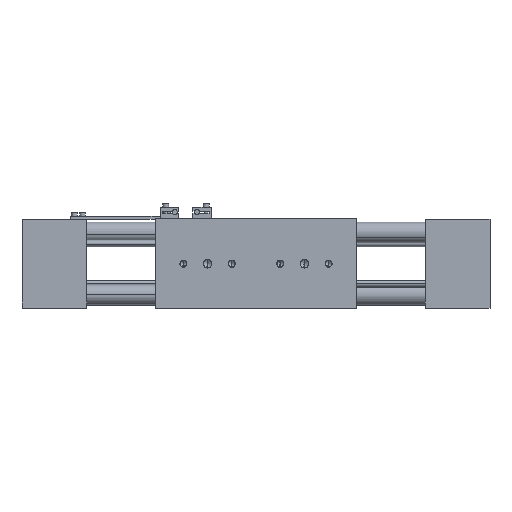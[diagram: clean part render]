
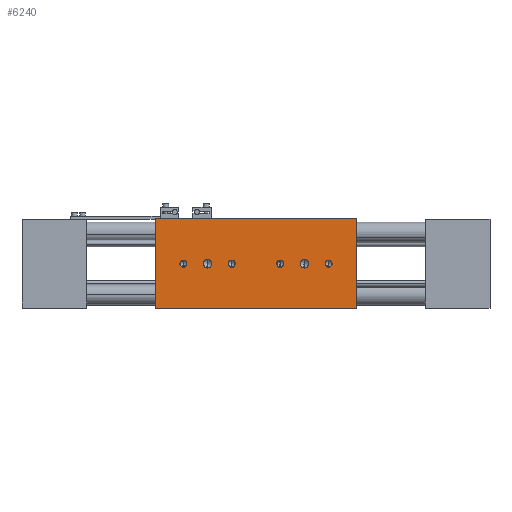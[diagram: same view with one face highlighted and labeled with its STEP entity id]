
A CAD part, front view. The second image highlights one B-rep face of the part: STEP entity #6240.
In plain terms, the highlighted planar face has unit normal (0, -1, 0).
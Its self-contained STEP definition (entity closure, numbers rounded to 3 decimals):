
#119 = CARTESIAN_POINT ( 'NONE',  ( -79.375, -35.56, -35.56 ) ) ;
#141 = EDGE_LOOP ( 'NONE', ( #3650, #5715 ) ) ;
#231 = EDGE_LOOP ( 'NONE', ( #5742, #7106 ) ) ;
#238 = AXIS2_PLACEMENT_3D ( 'NONE', #6241, #2298, #6925 ) ;
#246 = ORIENTED_EDGE ( 'NONE', *, *, #981, .F. ) ;
#276 = VECTOR ( 'NONE', #3984, 1000. ) ;
#380 = CIRCLE ( 'NONE', #1362, 2.807 ) ;
#422 = DIRECTION ( 'NONE',  ( 0., 0., 1. ) ) ;
#427 = ORIENTED_EDGE ( 'NONE', *, *, #7292, .T. ) ;
#452 = LINE ( 'NONE', #7985, #276 ) ;
#476 = DIRECTION ( 'NONE',  ( 0., 1., 0. ) ) ;
#531 = VECTOR ( 'NONE', #1212, 1000. ) ;
#561 = CARTESIAN_POINT ( 'NONE',  ( -19.05, -35.56, 0. ) ) ;
#573 = EDGE_CURVE ( 'NONE', #7509, #4147, #6424, .T. ) ;
#675 = CIRCLE ( 'NONE', #880, 2.807 ) ;
#708 = CIRCLE ( 'NONE', #3105, 3.429 ) ;
#865 = AXIS2_PLACEMENT_3D ( 'NONE', #3472, #8119, #4132 ) ;
#880 = AXIS2_PLACEMENT_3D ( 'NONE', #6082, #2136, #6754 ) ;
#950 = ORIENTED_EDGE ( 'NONE', *, *, #573, .T. ) ;
#981 = EDGE_CURVE ( 'NONE', #8112, #4147, #5464, .T. ) ;
#1010 = AXIS2_PLACEMENT_3D ( 'NONE', #561, #5034, #1178 ) ;
#1030 = VERTEX_POINT ( 'NONE', #5101 ) ;
#1089 = EDGE_CURVE ( 'NONE', #5295, #7509, #7417, .T. ) ;
#1168 = FACE_BOUND ( 'NONE', #231, .T. ) ;
#1178 = DIRECTION ( 'NONE',  ( 0., 0., 1. ) ) ;
#1200 = CARTESIAN_POINT ( 'NONE',  ( -57.15, -35.56, 0. ) ) ;
#1212 = DIRECTION ( 'NONE',  ( 0., 0., -1. ) ) ;
#1302 = CARTESIAN_POINT ( 'NONE',  ( -79.375, -35.56, 35.56 ) ) ;
#1362 = AXIS2_PLACEMENT_3D ( 'NONE', #6211, #2272, #6881 ) ;
#1371 = DIRECTION ( 'NONE',  ( 0., 1., 0. ) ) ;
#1377 = FACE_BOUND ( 'NONE', #4401, .T. ) ;
#1483 = EDGE_CURVE ( 'NONE', #3483, #4944, #380, .T. ) ;
#1590 = CARTESIAN_POINT ( 'NONE',  ( 79.375, -35.56, -35.56 ) ) ;
#1619 = CARTESIAN_POINT ( 'NONE',  ( -57.15, -35.56, 0. ) ) ;
#1685 = CARTESIAN_POINT ( 'NONE',  ( 19.05, -35.56, -2.807 ) ) ;
#1693 = PLANE ( 'NONE',  #6459 ) ;
#1711 = EDGE_CURVE ( 'NONE', #3253, #1864, #3862, .T. ) ;
#1818 = DIRECTION ( 'NONE',  ( 0., 0., 1. ) ) ;
#1864 = VERTEX_POINT ( 'NONE', #6212 ) ;
#1872 = EDGE_CURVE ( 'NONE', #4790, #5922, #7929, .T. ) ;
#1903 = AXIS2_PLACEMENT_3D ( 'NONE', #8208, #4229, #422 ) ;
#1958 = AXIS2_PLACEMENT_3D ( 'NONE', #1200, #5734, #1818 ) ;
#1994 = EDGE_CURVE ( 'NONE', #4944, #3483, #3958, .T. ) ;
#2044 = CIRCLE ( 'NONE', #6963, 2.807 ) ;
#2051 = CIRCLE ( 'NONE', #1958, 2.807 ) ;
#2108 = ORIENTED_EDGE ( 'NONE', *, *, #2772, .T. ) ;
#2136 = DIRECTION ( 'NONE',  ( 0., 1., 0. ) ) ;
#2254 = CARTESIAN_POINT ( 'NONE',  ( -38.1, -35.56, 0. ) ) ;
#2257 = DIRECTION ( 'NONE',  ( 0., 0., 1. ) ) ;
#2272 = DIRECTION ( 'NONE',  ( 0., 1., 0. ) ) ;
#2298 = DIRECTION ( 'NONE',  ( 0., 1., 0. ) ) ;
#2432 = CARTESIAN_POINT ( 'NONE',  ( 79.375, -35.56, 35.56 ) ) ;
#2457 = EDGE_CURVE ( 'NONE', #6894, #1030, #8027, .T. ) ;
#2551 = AXIS2_PLACEMENT_3D ( 'NONE', #1619, #6202, #2257 ) ;
#2555 = CARTESIAN_POINT ( 'NONE',  ( 38.1, -35.56, 3.429 ) ) ;
#2573 = ORIENTED_EDGE ( 'NONE', *, *, #6540, .T. ) ;
#2772 = EDGE_CURVE ( 'NONE', #4585, #7869, #8122, .T. ) ;
#2792 = CARTESIAN_POINT ( 'NONE',  ( -57.15, -35.56, 2.807 ) ) ;
#2851 = ORIENTED_EDGE ( 'NONE', *, *, #4907, .T. ) ;
#2875 = EDGE_CURVE ( 'NONE', #4138, #7384, #7712, .T. ) ;
#2882 = DIRECTION ( 'NONE',  ( 0., 0., 1. ) ) ;
#2969 = CARTESIAN_POINT ( 'NONE',  ( -79.375, -35.56, 35.56 ) ) ;
#2980 = CARTESIAN_POINT ( 'NONE',  ( -19.05, -35.56, 0. ) ) ;
#3105 = AXIS2_PLACEMENT_3D ( 'NONE', #2254, #6867, #2882 ) ;
#3112 = ORIENTED_EDGE ( 'NONE', *, *, #8376, .F. ) ;
#3253 = VERTEX_POINT ( 'NONE', #4833 ) ;
#3349 = EDGE_LOOP ( 'NONE', ( #3994, #2108 ) ) ;
#3472 = CARTESIAN_POINT ( 'NONE',  ( -38.1, -35.56, 0. ) ) ;
#3483 = VERTEX_POINT ( 'NONE', #1685 ) ;
#3636 = DIRECTION ( 'NONE',  ( 0., 0., 1. ) ) ;
#3650 = ORIENTED_EDGE ( 'NONE', *, *, #1483, .T. ) ;
#3719 = DIRECTION ( 'NONE',  ( 0., 1., 0. ) ) ;
#3843 = DIRECTION ( 'NONE',  ( 0., 0., -1. ) ) ;
#3862 = CIRCLE ( 'NONE', #8124, 2.807 ) ;
#3901 = DIRECTION ( 'NONE',  ( 1., 0., 0. ) ) ;
#3958 = CIRCLE ( 'NONE', #4443, 2.807 ) ;
#3984 = DIRECTION ( 'NONE',  ( 1., 0., 0. ) ) ;
#3994 = ORIENTED_EDGE ( 'NONE', *, *, #6127, .T. ) ;
#4132 = DIRECTION ( 'NONE',  ( 0., 0., 1. ) ) ;
#4138 = VERTEX_POINT ( 'NONE', #2792 ) ;
#4147 = VERTEX_POINT ( 'NONE', #1590 ) ;
#4151 = CARTESIAN_POINT ( 'NONE',  ( -57.15, -35.56, -2.807 ) ) ;
#4229 = DIRECTION ( 'NONE',  ( 0., 1., 0. ) ) ;
#4380 = FACE_OUTER_BOUND ( 'NONE', #8192, .T. ) ;
#4401 = EDGE_LOOP ( 'NONE', ( #2573, #6184 ) ) ;
#4443 = AXIS2_PLACEMENT_3D ( 'NONE', #7710, #3719, #8365 ) ;
#4585 = VERTEX_POINT ( 'NONE', #6946 ) ;
#4589 = FACE_BOUND ( 'NONE', #141, .T. ) ;
#4639 = VECTOR ( 'NONE', #3901, 1000. ) ;
#4790 = VERTEX_POINT ( 'NONE', #2555 ) ;
#4794 = FACE_BOUND ( 'NONE', #5441, .T. ) ;
#4803 = ORIENTED_EDGE ( 'NONE', *, *, #1089, .T. ) ;
#4833 = CARTESIAN_POINT ( 'NONE',  ( 57.15, -35.56, 2.807 ) ) ;
#4896 = ORIENTED_EDGE ( 'NONE', *, *, #2875, .T. ) ;
#4907 = EDGE_CURVE ( 'NONE', #7384, #4138, #2051, .T. ) ;
#4944 = VERTEX_POINT ( 'NONE', #7782 ) ;
#4947 = DIRECTION ( 'NONE',  ( 0., 0., 1. ) ) ;
#5034 = DIRECTION ( 'NONE',  ( 0., 1., 0. ) ) ;
#5101 = CARTESIAN_POINT ( 'NONE',  ( -19.05, -35.56, -2.807 ) ) ;
#5257 = CARTESIAN_POINT ( 'NONE',  ( 57.15, -35.56, 0. ) ) ;
#5295 = VERTEX_POINT ( 'NONE', #5854 ) ;
#5441 = EDGE_LOOP ( 'NONE', ( #427, #6850 ) ) ;
#5464 = LINE ( 'NONE', #2432, #531 ) ;
#5715 = ORIENTED_EDGE ( 'NONE', *, *, #1994, .T. ) ;
#5734 = DIRECTION ( 'NONE',  ( 0., 1., 0. ) ) ;
#5742 = ORIENTED_EDGE ( 'NONE', *, *, #7457, .T. ) ;
#5845 = VECTOR ( 'NONE', #3843, 1000. ) ;
#5854 = CARTESIAN_POINT ( 'NONE',  ( -79.375, -35.56, 35.56 ) ) ;
#5922 = VERTEX_POINT ( 'NONE', #5979 ) ;
#5926 = DIRECTION ( 'NONE',  ( 0., 0., 1. ) ) ;
#5979 = CARTESIAN_POINT ( 'NONE',  ( 38.1, -35.56, -3.429 ) ) ;
#6082 = CARTESIAN_POINT ( 'NONE',  ( 57.15, -35.56, 0. ) ) ;
#6127 = EDGE_CURVE ( 'NONE', #7869, #4585, #708, .T. ) ;
#6165 = FACE_BOUND ( 'NONE', #7142, .T. ) ;
#6184 = ORIENTED_EDGE ( 'NONE', *, *, #2457, .T. ) ;
#6202 = DIRECTION ( 'NONE',  ( 0., 1., 0. ) ) ;
#6211 = CARTESIAN_POINT ( 'NONE',  ( 19.05, -35.56, 0. ) ) ;
#6212 = CARTESIAN_POINT ( 'NONE',  ( 57.15, -35.56, -2.807 ) ) ;
#6240 = ADVANCED_FACE ( 'NONE', ( #4794, #1168, #4589, #1377, #7950, #6165, #4380 ), #1693, .F. ) ;
#6241 = CARTESIAN_POINT ( 'NONE',  ( 38.1, -35.56, 0. ) ) ;
#6424 = LINE ( 'NONE', #119, #4639 ) ;
#6459 = AXIS2_PLACEMENT_3D ( 'NONE', #2969, #476, #4947 ) ;
#6540 = EDGE_CURVE ( 'NONE', #1030, #6894, #2044, .T. ) ;
#6754 = DIRECTION ( 'NONE',  ( 0., 0., 1. ) ) ;
#6850 = ORIENTED_EDGE ( 'NONE', *, *, #1711, .T. ) ;
#6867 = DIRECTION ( 'NONE',  ( 0., 1., 0. ) ) ;
#6881 = DIRECTION ( 'NONE',  ( 0., 0., 1. ) ) ;
#6894 = VERTEX_POINT ( 'NONE', #7328 ) ;
#6925 = DIRECTION ( 'NONE',  ( 0., 0., 1. ) ) ;
#6946 = CARTESIAN_POINT ( 'NONE',  ( -38.1, -35.56, 3.429 ) ) ;
#6963 = AXIS2_PLACEMENT_3D ( 'NONE', #2980, #7647, #3636 ) ;
#7106 = ORIENTED_EDGE ( 'NONE', *, *, #1872, .T. ) ;
#7142 = EDGE_LOOP ( 'NONE', ( #2851, #4896 ) ) ;
#7292 = EDGE_CURVE ( 'NONE', #1864, #3253, #675, .T. ) ;
#7296 = CIRCLE ( 'NONE', #238, 3.429 ) ;
#7328 = CARTESIAN_POINT ( 'NONE',  ( -19.05, -35.56, 2.807 ) ) ;
#7384 = VERTEX_POINT ( 'NONE', #4151 ) ;
#7406 = CARTESIAN_POINT ( 'NONE',  ( -38.1, -35.56, -3.429 ) ) ;
#7417 = LINE ( 'NONE', #1302, #5845 ) ;
#7457 = EDGE_CURVE ( 'NONE', #5922, #4790, #7296, .T. ) ;
#7509 = VERTEX_POINT ( 'NONE', #7618 ) ;
#7618 = CARTESIAN_POINT ( 'NONE',  ( -79.375, -35.56, -35.56 ) ) ;
#7630 = CARTESIAN_POINT ( 'NONE',  ( 79.375, -35.56, 35.56 ) ) ;
#7647 = DIRECTION ( 'NONE',  ( 0., 1., 0. ) ) ;
#7710 = CARTESIAN_POINT ( 'NONE',  ( 19.05, -35.56, 0. ) ) ;
#7712 = CIRCLE ( 'NONE', #2551, 2.807 ) ;
#7782 = CARTESIAN_POINT ( 'NONE',  ( 19.05, -35.56, 2.807 ) ) ;
#7869 = VERTEX_POINT ( 'NONE', #7406 ) ;
#7929 = CIRCLE ( 'NONE', #1903, 3.429 ) ;
#7950 = FACE_BOUND ( 'NONE', #3349, .T. ) ;
#7985 = CARTESIAN_POINT ( 'NONE',  ( -79.375, -35.56, 35.56 ) ) ;
#8027 = CIRCLE ( 'NONE', #1010, 2.807 ) ;
#8112 = VERTEX_POINT ( 'NONE', #7630 ) ;
#8119 = DIRECTION ( 'NONE',  ( 0., 1., 0. ) ) ;
#8122 = CIRCLE ( 'NONE', #865, 3.429 ) ;
#8124 = AXIS2_PLACEMENT_3D ( 'NONE', #5257, #1371, #5926 ) ;
#8192 = EDGE_LOOP ( 'NONE', ( #950, #246, #3112, #4803 ) ) ;
#8208 = CARTESIAN_POINT ( 'NONE',  ( 38.1, -35.56, 0. ) ) ;
#8365 = DIRECTION ( 'NONE',  ( 0., 0., 1. ) ) ;
#8376 = EDGE_CURVE ( 'NONE', #5295, #8112, #452, .T. ) ;
